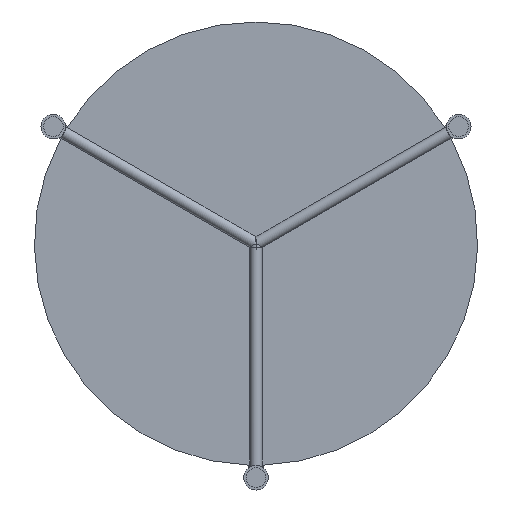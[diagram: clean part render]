
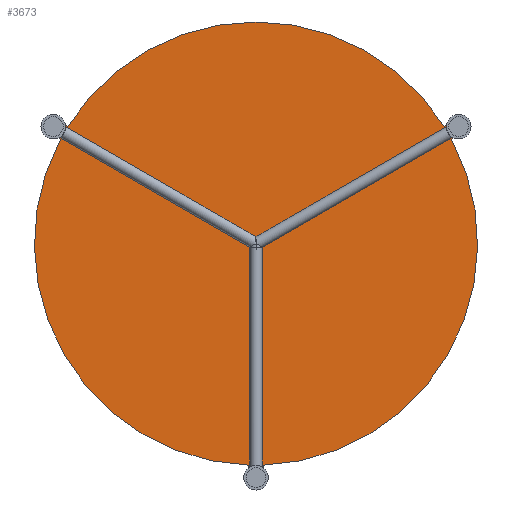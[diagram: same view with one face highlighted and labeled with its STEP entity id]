
A CAD part, front view. The second image highlights one B-rep face of the part: STEP entity #3673.
In plain terms, the highlighted planar face has unit normal (0, -1, 0).
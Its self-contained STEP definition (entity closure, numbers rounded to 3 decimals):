
#29 = DIRECTION ( 'NONE',  ( 0., 0., -1. ) ) ;
#69 = CARTESIAN_POINT ( 'NONE',  ( -161.605, 499., 100.231 ) ) ;
#123 = VERTEX_POINT ( 'NONE', #1795 ) ;
#131 = AXIS2_PLACEMENT_3D ( 'NONE', #2660, #3396, #3702 ) ;
#144 = VECTOR ( 'NONE', #2680, 1000. ) ;
#152 = DIRECTION ( 'NONE',  ( 0., 0., -1. ) ) ;
#186 = ORIENTED_EDGE ( 'NONE', *, *, #2617, .T. ) ;
#291 = DIRECTION ( 'NONE',  ( 0., -1., 0. ) ) ;
#295 = CARTESIAN_POINT ( 'NONE',  ( 0., 499., 0. ) ) ;
#310 = EDGE_CURVE ( 'NONE', #738, #1966, #2850, .T. ) ;
#374 = CARTESIAN_POINT ( 'NONE',  ( 160.677, 499., 85.839 ) ) ;
#403 = CARTESIAN_POINT ( 'NONE',  ( -6., 499., -190.07 ) ) ;
#426 = VERTEX_POINT ( 'NONE', #1713 ) ;
#448 = EDGE_CURVE ( 'NONE', #3697, #1905, #959, .T. ) ;
#483 = EDGE_CURVE ( 'NONE', #558, #750, #610, .T. ) ;
#558 = VERTEX_POINT ( 'NONE', #2636 ) ;
#564 = VECTOR ( 'NONE', #3554, 1000. ) ;
#603 = ORIENTED_EDGE ( 'NONE', *, *, #448, .T. ) ;
#610 = LINE ( 'NONE', #403, #1945 ) ;
#612 = CARTESIAN_POINT ( 'NONE',  ( 6., 499., -182.07 ) ) ;
#619 = PLANE ( 'NONE',  #2968 ) ;
#641 = LINE ( 'NONE', #1023, #144 ) ;
#703 = AXIS2_PLACEMENT_3D ( 'NONE', #1220, #3949, #2943 ) ;
#714 = DIRECTION ( 'NONE',  ( -0.866, 0., 0.5 ) ) ;
#738 = VERTEX_POINT ( 'NONE', #3985 ) ;
#750 = VERTEX_POINT ( 'NONE', #1646 ) ;
#759 = ORIENTED_EDGE ( 'NONE', *, *, #1118, .T. ) ;
#779 = ORIENTED_EDGE ( 'NONE', *, *, #2748, .T. ) ;
#802 = EDGE_CURVE ( 'NONE', #1966, #426, #4029, .T. ) ;
#881 = CARTESIAN_POINT ( 'NONE',  ( 0., 499., 0. ) ) ;
#959 = CIRCLE ( 'NONE', #2078, 10. ) ;
#973 = EDGE_CURVE ( 'NONE', #2425, #4198, #3833, .T. ) ;
#990 = AXIS2_PLACEMENT_3D ( 'NONE', #2608, #2280, #3617 ) ;
#995 = VECTOR ( 'NONE', #714, 1000. ) ;
#1023 = CARTESIAN_POINT ( 'NONE',  ( 167.605, 499., 89.839 ) ) ;
#1060 = VECTOR ( 'NONE', #1341, 1000. ) ;
#1118 = EDGE_CURVE ( 'NONE', #2730, #2175, #641, .T. ) ;
#1125 = CARTESIAN_POINT ( 'NONE',  ( 0., 499., 180. ) ) ;
#1220 = CARTESIAN_POINT ( 'NONE',  ( 164.605, 499., 95.035 ) ) ;
#1341 = DIRECTION ( 'NONE',  ( 0.866, 0., -0.5 ) ) ;
#1370 = EDGE_CURVE ( 'NONE', #2175, #123, #3458, .T. ) ;
#1447 = CARTESIAN_POINT ( 'NONE',  ( 6., 499., -179.9 ) ) ;
#1516 = EDGE_CURVE ( 'NONE', #123, #738, #1524, .T. ) ;
#1524 = LINE ( 'NONE', #3889, #564 ) ;
#1552 = CIRCLE ( 'NONE', #2117, 180. ) ;
#1644 = DIRECTION ( 'NONE',  ( 0., 0., -1. ) ) ;
#1646 = CARTESIAN_POINT ( 'NONE',  ( -6., 499., -182.07 ) ) ;
#1708 = CARTESIAN_POINT ( 'NONE',  ( 0., 499., 0. ) ) ;
#1713 = CARTESIAN_POINT ( 'NONE',  ( -152.798, 499., 95.146 ) ) ;
#1795 = CARTESIAN_POINT ( 'NONE',  ( 154.677, 499., 96.231 ) ) ;
#1905 = VERTEX_POINT ( 'NONE', #3680 ) ;
#1945 = VECTOR ( 'NONE', #29, 1000. ) ;
#1966 = VERTEX_POINT ( 'NONE', #1125 ) ;
#1977 = LINE ( 'NONE', #2980, #1060 ) ;
#2013 = EDGE_LOOP ( 'NONE', ( #3674, #603, #3379, #186, #4065, #779, #3491, #3909, #759, #2846, #2989, #3966, #2516 ) ) ;
#2035 = CIRCLE ( 'NONE', #131, 180. ) ;
#2058 = CARTESIAN_POINT ( 'NONE',  ( -154.677, 499., 96.231 ) ) ;
#2078 = AXIS2_PLACEMENT_3D ( 'NONE', #2304, #4114, #3432 ) ;
#2117 = AXIS2_PLACEMENT_3D ( 'NONE', #1708, #3059, #4088 ) ;
#2132 = VECTOR ( 'NONE', #3807, 1000. ) ;
#2175 = VERTEX_POINT ( 'NONE', #374 ) ;
#2253 = DIRECTION ( 'NONE',  ( 0., 0., -1. ) ) ;
#2257 = CARTESIAN_POINT ( 'NONE',  ( -158.798, 499., 84.754 ) ) ;
#2280 = DIRECTION ( 'NONE',  ( 0., 1., 0. ) ) ;
#2304 = CARTESIAN_POINT ( 'NONE',  ( -164.605, 499., 95.035 ) ) ;
#2315 = FACE_OUTER_BOUND ( 'NONE', #2013, .T. ) ;
#2425 = VERTEX_POINT ( 'NONE', #612 ) ;
#2516 = ORIENTED_EDGE ( 'NONE', *, *, #802, .T. ) ;
#2588 = CARTESIAN_POINT ( 'NONE',  ( 6., 499., -179.9 ) ) ;
#2592 = DIRECTION ( 'NONE',  ( 0., -1., 0. ) ) ;
#2608 = CARTESIAN_POINT ( 'NONE',  ( 0., 499., -190.07 ) ) ;
#2617 = EDGE_CURVE ( 'NONE', #2720, #558, #2035, .T. ) ;
#2636 = CARTESIAN_POINT ( 'NONE',  ( -6., 499., -179.9 ) ) ;
#2660 = CARTESIAN_POINT ( 'NONE',  ( 0., 499., 0. ) ) ;
#2668 = DIRECTION ( 'NONE',  ( 0., -1., 0. ) ) ;
#2680 = DIRECTION ( 'NONE',  ( 0.866, 0., 0.5 ) ) ;
#2720 = VERTEX_POINT ( 'NONE', #2257 ) ;
#2730 = VERTEX_POINT ( 'NONE', #4250 ) ;
#2748 = EDGE_CURVE ( 'NONE', #750, #2425, #3307, .T. ) ;
#2846 = ORIENTED_EDGE ( 'NONE', *, *, #1370, .T. ) ;
#2850 = CIRCLE ( 'NONE', #3198, 180. ) ;
#2943 = DIRECTION ( 'NONE',  ( 0., 0., -1. ) ) ;
#2968 = AXIS2_PLACEMENT_3D ( 'NONE', #3319, #291, #1644 ) ;
#2980 = CARTESIAN_POINT ( 'NONE',  ( -158.798, 499., 84.754 ) ) ;
#2989 = ORIENTED_EDGE ( 'NONE', *, *, #1516, .T. ) ;
#3059 = DIRECTION ( 'NONE',  ( 0., -1., 0. ) ) ;
#3198 = AXIS2_PLACEMENT_3D ( 'NONE', #881, #2592, #152 ) ;
#3289 = EDGE_CURVE ( 'NONE', #1905, #2720, #1977, .T. ) ;
#3307 = CIRCLE ( 'NONE', #990, 10. ) ;
#3319 = CARTESIAN_POINT ( 'NONE',  ( 0., 499., 0. ) ) ;
#3336 = EDGE_CURVE ( 'NONE', #426, #3697, #4043, .T. ) ;
#3372 = EDGE_CURVE ( 'NONE', #4198, #2730, #1552, .T. ) ;
#3379 = ORIENTED_EDGE ( 'NONE', *, *, #3289, .T. ) ;
#3396 = DIRECTION ( 'NONE',  ( 0., -1., 0. ) ) ;
#3432 = DIRECTION ( 'NONE',  ( 0., 0., -1. ) ) ;
#3458 = CIRCLE ( 'NONE', #703, 10. ) ;
#3491 = ORIENTED_EDGE ( 'NONE', *, *, #973, .T. ) ;
#3554 = DIRECTION ( 'NONE',  ( -0.866, 0., -0.5 ) ) ;
#3617 = DIRECTION ( 'NONE',  ( 0., 0., -1. ) ) ;
#3673 = ADVANCED_FACE ( 'NONE', ( #2315 ), #619, .T. ) ;
#3674 = ORIENTED_EDGE ( 'NONE', *, *, #3336, .T. ) ;
#3680 = CARTESIAN_POINT ( 'NONE',  ( -160.677, 499., 85.839 ) ) ;
#3697 = VERTEX_POINT ( 'NONE', #2058 ) ;
#3702 = DIRECTION ( 'NONE',  ( 0., 0., -1. ) ) ;
#3807 = DIRECTION ( 'NONE',  ( 0., 0., 1. ) ) ;
#3833 = LINE ( 'NONE', #1447, #2132 ) ;
#3889 = CARTESIAN_POINT ( 'NONE',  ( 152.798, 499., 95.146 ) ) ;
#3909 = ORIENTED_EDGE ( 'NONE', *, *, #3372, .T. ) ;
#3949 = DIRECTION ( 'NONE',  ( 0., 1., 0. ) ) ;
#3966 = ORIENTED_EDGE ( 'NONE', *, *, #310, .T. ) ;
#3985 = CARTESIAN_POINT ( 'NONE',  ( 152.798, 499., 95.146 ) ) ;
#4029 = CIRCLE ( 'NONE', #4305, 180. ) ;
#4043 = LINE ( 'NONE', #69, #995 ) ;
#4065 = ORIENTED_EDGE ( 'NONE', *, *, #483, .T. ) ;
#4088 = DIRECTION ( 'NONE',  ( 0., 0., -1. ) ) ;
#4114 = DIRECTION ( 'NONE',  ( 0., 1., 0. ) ) ;
#4198 = VERTEX_POINT ( 'NONE', #2588 ) ;
#4250 = CARTESIAN_POINT ( 'NONE',  ( 158.798, 499., 84.754 ) ) ;
#4305 = AXIS2_PLACEMENT_3D ( 'NONE', #295, #2668, #2253 ) ;
